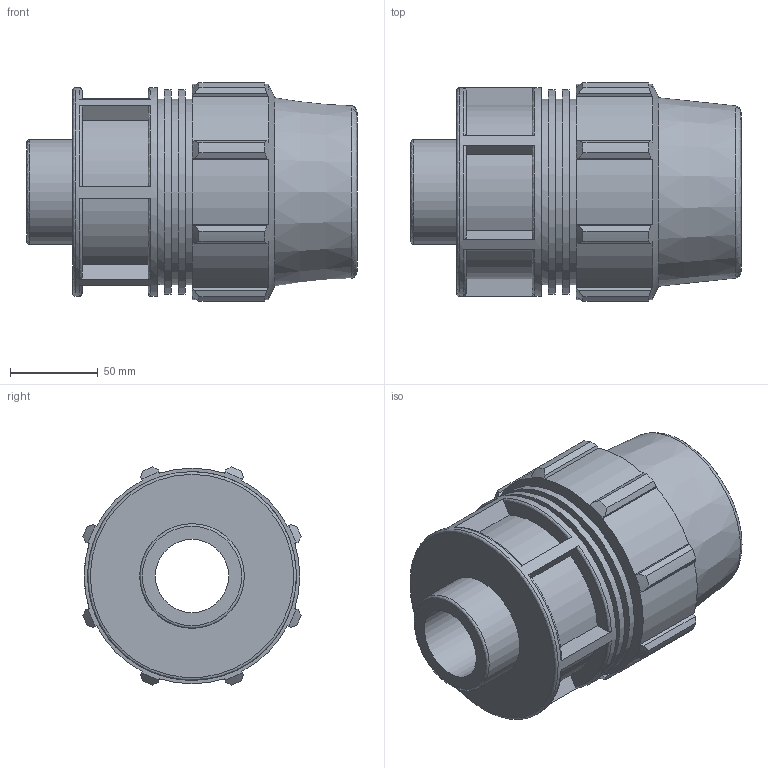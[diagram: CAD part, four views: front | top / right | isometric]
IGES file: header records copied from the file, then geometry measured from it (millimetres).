
Global section: file name: 0702060750200A.ipt; native system: Autodesk Inventor 2015; preprocessor: unknown; author: KIM; date: 20180325.201120; units: millimetre
Bounding box: 188 x 124.2 x 124.2 mm (x, y, z)
Volume: 910806.5 mm3; surface area: 144159.5 mm2
Topology: 1 solids, 1 shells, 125 faces, 333 edges, 224 vertices
Faces by surface type: plane 67, cylinder 29, revolution 19, cone 10
Full cylindrical faces by diameter (mm): 59.614 x1, 105.6 x3, 116.424 x2, 118.8 x1
